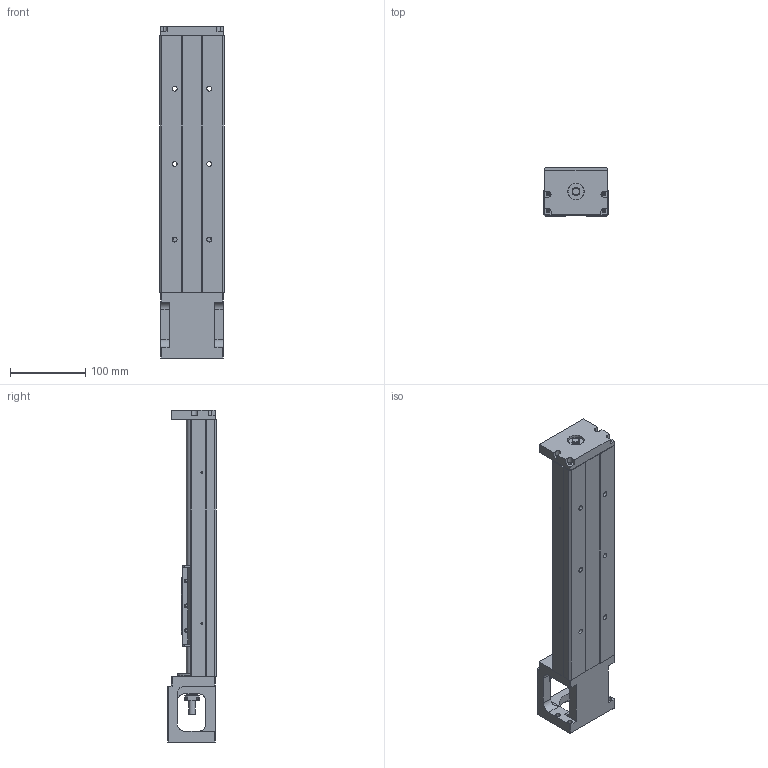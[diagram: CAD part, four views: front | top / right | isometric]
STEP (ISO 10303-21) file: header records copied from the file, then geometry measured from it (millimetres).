
FILE_DESCRIPTION(/* description */ (''),/* implementation_level */ '2;1');
FILE_NAME(/* name */ 'KP46N-340.stp',/* time_stamp */ '2020-06-05T09:47:54+08:00',/* author */ (''),/* organization */ (''),/* preprocessor_version */ 'ST-DEVELOPER v14',/* originating_system */ 'SIEMENS PLM Software NX 8.0',/* authorisation */ '');
FILE_SCHEMA (('AUTOMOTIVE_DESIGN { 1 0 10303 214 3 1 1 1 }'));
Length unit declared in the file: millimetre
Products named in the file (1): model1
Bounding box: 86 x 64 x 440 mm (x, y, z)
Volume: 1036714.8 mm3; surface area: 213538.7 mm2
Topology: 5 solids, 13 shells, 585 faces, 1542 edges, 1015 vertices
Faces by surface type: plane 279, cylinder 211, cone 52, bspline 35, torus 8
Full cylindrical faces by diameter (mm): 2.11 x4, 2.15 x4, 2.42 x8, 3 x6, 3.2 x4, 3.3 x8, 3.4 x8, 4.2 x4, 4.5 x8, 5 x10, 6 x8, 6.35 x2, 6.6 x6, 8 x1, 9.6 x1, 10 x3, 11 x6, 12 x1, 14.95 x2, 15 x1, 16 x2, 22 x3, 27.5 x1, 44 x1, 50 x1
Entity records: 28204 total; most frequent: CARTESIAN_POINT 12133, ORIENTED_EDGE 2664, DIRECTION 2612, EDGE_CURVE 1332, AXIS2_PLACEMENT_3D 957, VERTEX_POINT 954, EDGE_LOOP 818, LINE 698
